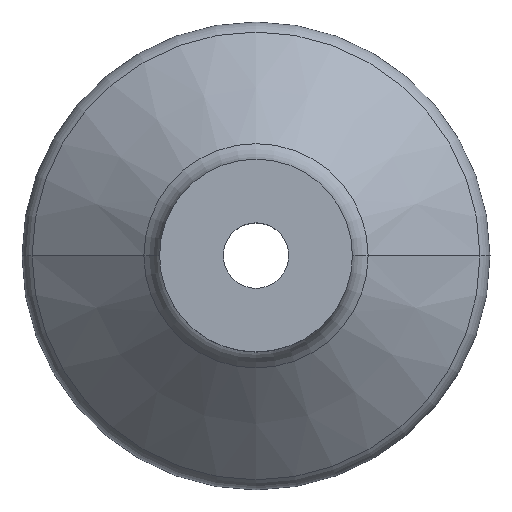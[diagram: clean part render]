
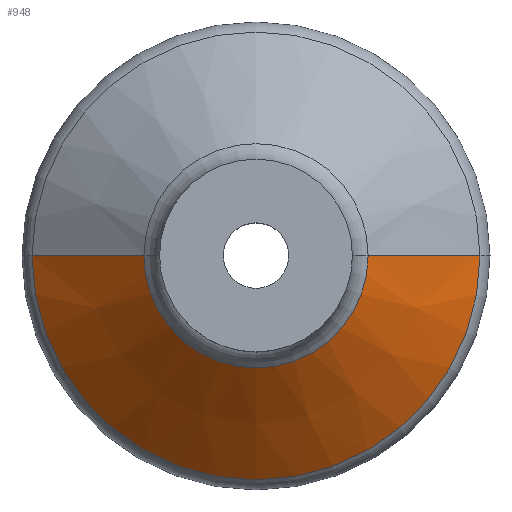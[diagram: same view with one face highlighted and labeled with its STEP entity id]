
A CAD part, top view. The second image highlights one B-rep face of the part: STEP entity #948.
In plain terms, the highlighted conical face has half-angle 48.407 degrees and reference radius 11.962 mm.
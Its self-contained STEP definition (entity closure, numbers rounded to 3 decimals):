
#4 = VERTEX_POINT ( 'NONE', #1092 ) ;
#16 = LINE ( 'NONE', #425, #464 ) ;
#20 = CIRCLE ( 'NONE', #1073, 5.99 ) ;
#24 = ORIENTED_EDGE ( 'NONE', *, *, #94, .T. ) ;
#31 = CIRCLE ( 'NONE', #559, 11.962 ) ;
#55 = DIRECTION ( 'NONE',  ( 0., 0., -1. ) ) ;
#85 = DIRECTION ( 'NONE',  ( -1., 0., 0. ) ) ;
#94 = EDGE_CURVE ( 'NONE', #253, #4, #20, .T. ) ;
#122 = ORIENTED_EDGE ( 'NONE', *, *, #219, .T. ) ;
#137 = EDGE_CURVE ( 'NONE', #253, #1069, #917, .T. ) ;
#175 = ORIENTED_EDGE ( 'NONE', *, *, #465, .T. ) ;
#213 = CARTESIAN_POINT ( 'NONE',  ( -11.962, 0., 11.197 ) ) ;
#219 = EDGE_CURVE ( 'NONE', #937, #1069, #31, .T. ) ;
#253 = VERTEX_POINT ( 'NONE', #529 ) ;
#259 = CARTESIAN_POINT ( 'NONE',  ( 0., 0., 11.197 ) ) ;
#327 = DIRECTION ( 'NONE',  ( -1., 0., 0. ) ) ;
#368 = CARTESIAN_POINT ( 'NONE',  ( 0., 0., 11.197 ) ) ;
#416 = DIRECTION ( 'NONE',  ( 0.748, 0., -0.664 ) ) ;
#425 = CARTESIAN_POINT ( 'NONE',  ( -11.962, 0., 11.197 ) ) ;
#464 = VECTOR ( 'NONE', #952, 1000. ) ;
#465 = EDGE_CURVE ( 'NONE', #4, #937, #16, .T. ) ;
#524 = DIRECTION ( 'NONE',  ( -1., 0., 0. ) ) ;
#529 = CARTESIAN_POINT ( 'NONE',  ( 5.99, 0., 16.497 ) ) ;
#559 = AXIS2_PLACEMENT_3D ( 'NONE', #259, #786, #524 ) ;
#579 = CONICAL_SURFACE ( 'NONE', #1107, 11.962, 0.845 ) ;
#694 = CARTESIAN_POINT ( 'NONE',  ( 0., 0., 16.497 ) ) ;
#786 = DIRECTION ( 'NONE',  ( 0., 0., 1. ) ) ;
#802 = EDGE_LOOP ( 'NONE', ( #859, #24, #175, #122 ) ) ;
#859 = ORIENTED_EDGE ( 'NONE', *, *, #137, .F. ) ;
#867 = CARTESIAN_POINT ( 'NONE',  ( 11.962, 0., 11.197 ) ) ;
#917 = LINE ( 'NONE', #867, #1130 ) ;
#937 = VERTEX_POINT ( 'NONE', #213 ) ;
#948 = ADVANCED_FACE ( 'NONE', ( #1114 ), #579, .T. ) ;
#952 = DIRECTION ( 'NONE',  ( -0.748, 0., -0.664 ) ) ;
#1041 = DIRECTION ( 'NONE',  ( 0., 0., -1. ) ) ;
#1069 = VERTEX_POINT ( 'NONE', #1086 ) ;
#1073 = AXIS2_PLACEMENT_3D ( 'NONE', #694, #55, #327 ) ;
#1086 = CARTESIAN_POINT ( 'NONE',  ( 11.962, 0., 11.197 ) ) ;
#1092 = CARTESIAN_POINT ( 'NONE',  ( -5.99, 0., 16.497 ) ) ;
#1107 = AXIS2_PLACEMENT_3D ( 'NONE', #368, #1041, #85 ) ;
#1114 = FACE_OUTER_BOUND ( 'NONE', #802, .T. ) ;
#1130 = VECTOR ( 'NONE', #416, 1000. ) ;
